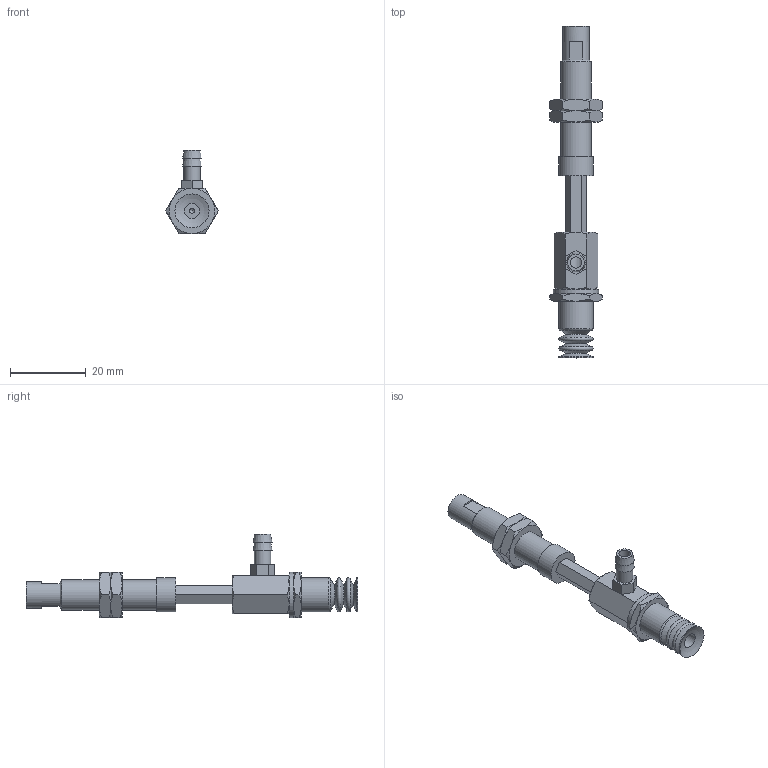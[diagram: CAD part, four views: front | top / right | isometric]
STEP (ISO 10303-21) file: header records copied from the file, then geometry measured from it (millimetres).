
FILE_DESCRIPTION(('STEP AP203'),'1');
FILE_NAME('-T.stp','2025-04-04T00:56:38',(' '),(' '),'Spatial InterOp 3D',' ',' ');
FILE_SCHEMA(('CONFIG_CONTROL_DESIGN'));
Length unit declared in the file: millimetre
Products named in the file (8): BNABPCYH-10-15-※-T; Adapter_napc-10-T; Connector_h-10-15; Nut napc_h-10-15; NAPCTH-10-15-FBODY; NAPCTH-10-15-MBODY; BPCG-10-※; T
Assembly tree (8 placements, depth 2):
  BNABPCYH-10-15-※-T
    Adapter_napc-10-T
    Connector_h-10-15
    Nut napc_h-10-15  x2
    NAPCTH-10-15-FBODY
    NAPCTH-10-15-MBODY
    BPCG-10-※
    T
Bounding box: 13.86 x 87.7 x 22 mm (x, y, z)
Volume: 5131.4 mm3; surface area: 5890.6 mm2
Topology: 8 solids, 8 shells, 187 faces, 394 edges, 236 vertices
Faces by surface type: plane 83, cone 72, cylinder 22, torus 8, sphere 2
Full cylindrical faces by diameter (mm): 1.25 x1, 3 x1, 4 x1, 4.134 x3, 4.3 x1, 5 x7, 7 x1, 7.188 x2, 8 x1, 9 x3, 12 x1
Entity records: 4842 total; most frequent: CARTESIAN_POINT 1202, DIRECTION 674, ORIENTED_EDGE 580, EDGE_CURVE 290, AXIS2_PLACEMENT_3D 287, EDGE_LOOP 240, VERTEX_POINT 205, FACE_OUTER_BOUND 195
